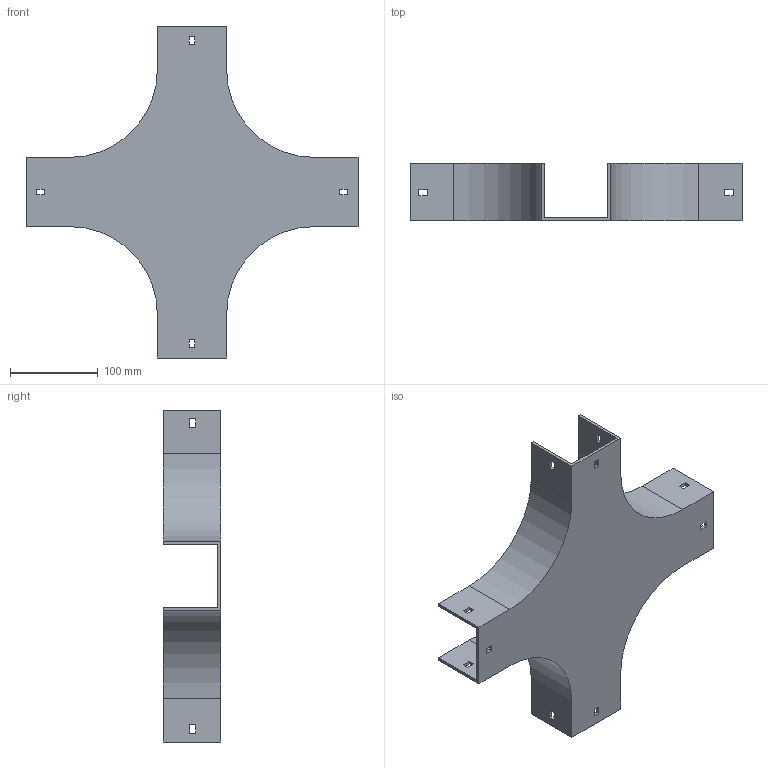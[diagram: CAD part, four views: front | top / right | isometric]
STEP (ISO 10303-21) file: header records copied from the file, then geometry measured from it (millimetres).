
FILE_DESCRIPTION (( 'STEP AP214' ), '1' );
FILE_NAME ('17B1H075.step', '2025-02-21T09:57:34', ( '' ), ( '' ), 'SwSTEP 2.0', 'SolidWorks 2023', '' );
FILE_SCHEMA (( 'AUTOMOTIVE_DESIGN' ));
Length unit declared in the file: millimetre
Products named in the file (1): 17B1H075
Bounding box: 379 x 65.5 x 379 mm (x, y, z)
Volume: 440539.9 mm3; surface area: 259564.2 mm2
Topology: 1 solids, 1 shells, 82 faces, 240 edges, 160 vertices
Faces by surface type: plane 74, cylinder 8
Entity records: 2751 total; most frequent: CARTESIAN_POINT 483, ORIENTED_EDGE 480, DIRECTION 422, EDGE_CURVE 240, LINE 224, VECTOR 224, VERTEX_POINT 160, EDGE_LOOP 106
